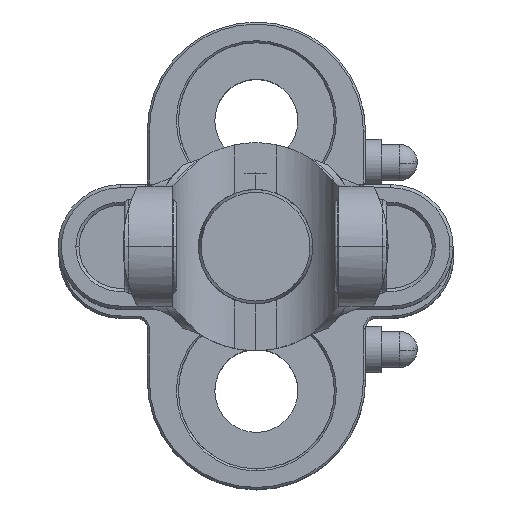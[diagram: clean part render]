
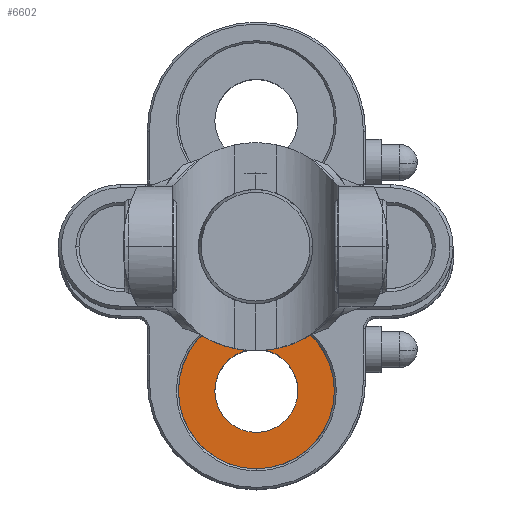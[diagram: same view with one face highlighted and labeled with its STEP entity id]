
A CAD part, top view. The second image highlights one B-rep face of the part: STEP entity #6602.
In plain terms, the highlighted planar face has unit normal (0, 0, 1).
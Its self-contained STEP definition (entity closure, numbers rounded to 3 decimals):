
#594 = DIRECTION ( 'NONE',  ( -0.497, 0.868, 0. ) ) ;
#607 = EDGE_CURVE ( 'NONE', #3298, #1358, #7083, .T. ) ;
#843 = DIRECTION ( 'NONE',  ( 0.497, -0.868, 0. ) ) ;
#895 = EDGE_CURVE ( 'NONE', #5760, #1975, #4019, .T. ) ;
#1179 = CARTESIAN_POINT ( 'NONE',  ( -1.91, -9.531, -716. ) ) ;
#1358 = VERTEX_POINT ( 'NONE', #5167 ) ;
#1359 = DIRECTION ( 'NONE',  ( -0.497, 0.868, 0. ) ) ;
#1383 = CARTESIAN_POINT ( 'NONE',  ( 0.077, -13., -716. ) ) ;
#1461 = ORIENTED_EDGE ( 'NONE', *, *, #607, .T. ) ;
#1565 = CIRCLE ( 'NONE', #5273, 7.5 ) ;
#1643 = AXIS2_PLACEMENT_3D ( 'NONE', #7559, #5056, #1359 ) ;
#1975 = VERTEX_POINT ( 'NONE', #3304 ) ;
#2040 = CIRCLE ( 'NONE', #7889, 3.998 ) ;
#2067 = CARTESIAN_POINT ( 'NONE',  ( 0.077, -13., -716. ) ) ;
#2082 = CARTESIAN_POINT ( 'NONE',  ( -3.392, -14.987, -716.001 ) ) ;
#2160 = DIRECTION ( 'NONE',  ( 0., 0., -1. ) ) ;
#2450 = EDGE_LOOP ( 'NONE', ( #1461, #4846 ) ) ;
#2570 = DIRECTION ( 'NONE',  ( 0., 0., 1. ) ) ;
#2656 = EDGE_CURVE ( 'NONE', #1975, #5760, #2040, .T. ) ;
#2827 = FACE_BOUND ( 'NONE', #7675, .T. ) ;
#3298 = VERTEX_POINT ( 'NONE', #6729 ) ;
#3304 = CARTESIAN_POINT ( 'NONE',  ( 2.065, -16.469, -716. ) ) ;
#3481 = AXIS2_PLACEMENT_3D ( 'NONE', #2067, #5394, #4685 ) ;
#3909 = DIRECTION ( 'NONE',  ( 0., 0., 1. ) ) ;
#4019 = CIRCLE ( 'NONE', #1643, 3.998 ) ;
#4392 = ORIENTED_EDGE ( 'NONE', *, *, #2656, .F. ) ;
#4409 = CARTESIAN_POINT ( 'NONE',  ( 0.077, -13., -716. ) ) ;
#4685 = DIRECTION ( 'NONE',  ( -0.497, 0.868, 0. ) ) ;
#4846 = ORIENTED_EDGE ( 'NONE', *, *, #7013, .T. ) ;
#4861 = ORIENTED_EDGE ( 'NONE', *, *, #895, .F. ) ;
#5056 = DIRECTION ( 'NONE',  ( 0., 0., 1. ) ) ;
#5167 = CARTESIAN_POINT ( 'NONE',  ( 3.805, -19.508, -715.999 ) ) ;
#5273 = AXIS2_PLACEMENT_3D ( 'NONE', #4409, #2570, #594 ) ;
#5394 = DIRECTION ( 'NONE',  ( 0., 0., 1. ) ) ;
#5540 = AXIS2_PLACEMENT_3D ( 'NONE', #2082, #2160, #843 ) ;
#5760 = VERTEX_POINT ( 'NONE', #1179 ) ;
#5867 = FACE_OUTER_BOUND ( 'NONE', #2450, .T. ) ;
#6445 = DIRECTION ( 'NONE',  ( -0.497, 0.868, 0. ) ) ;
#6602 = ADVANCED_FACE ( 'NONE', ( #2827, #5867 ), #6624, .F. ) ;
#6624 = PLANE ( 'NONE',  #5540 ) ;
#6729 = CARTESIAN_POINT ( 'NONE',  ( -3.65, -6.492, -716.001 ) ) ;
#7013 = EDGE_CURVE ( 'NONE', #1358, #3298, #1565, .T. ) ;
#7083 = CIRCLE ( 'NONE', #3481, 7.5 ) ;
#7559 = CARTESIAN_POINT ( 'NONE',  ( 0.077, -13., -716. ) ) ;
#7675 = EDGE_LOOP ( 'NONE', ( #4861, #4392 ) ) ;
#7889 = AXIS2_PLACEMENT_3D ( 'NONE', #1383, #3909, #6445 ) ;
